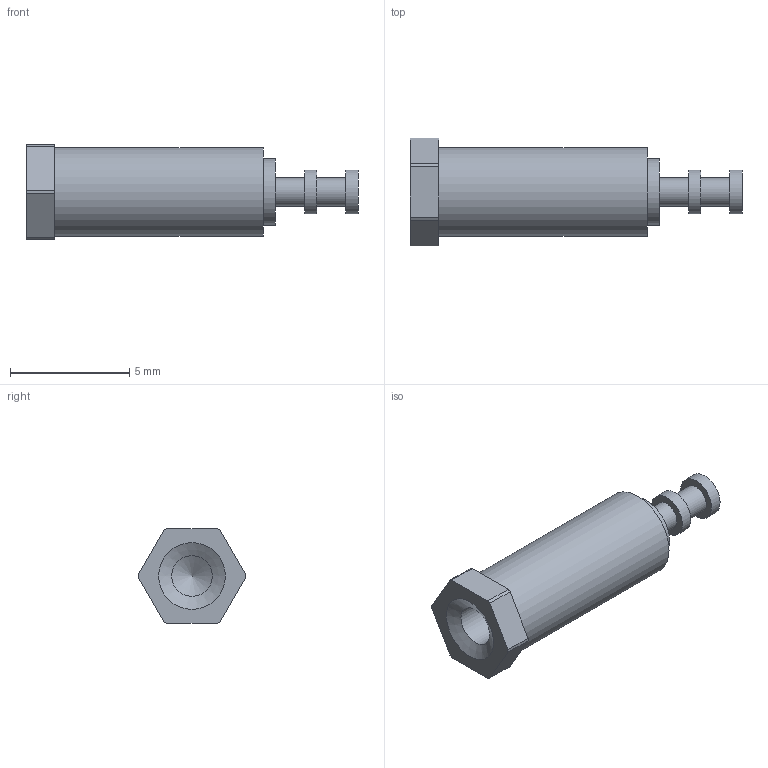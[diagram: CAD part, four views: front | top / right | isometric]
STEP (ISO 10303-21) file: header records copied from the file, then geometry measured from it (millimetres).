
FILE_DESCRIPTION(/* description */ (''),/* implementation_level */ '2;1');
FILE_NAME(/* name */ '\\Snap1\dwgs\Customer 3D Models\572\572-4887-01 Customer model.stp',/* time_stamp */ '2017-01-12T14:44:57+00:00',/* author */ ('paulk'),/* organization */ (''),/* preprocessor_version */ 'ST-DEVELOPER v15.2',/* originating_system */ 'Autodesk Inventor 2014',/* authorisation */ '');
FILE_SCHEMA (('CONFIG_CONTROL_DESIGN'));
Length unit declared in the file: millimetre
Products named in the file (1): 572-4887-01 Customer model
Bounding box: 13.89 x 4.5 x 3.96 mm (x, y, z)
Volume: 109.2 mm3; surface area: 191 mm2
Topology: 1 solids, 1 shells, 29 faces, 61 edges, 40 vertices
Faces by surface type: plane 14, cylinder 13, cone 2
Full cylindrical faces by diameter (mm): 1.194 x2, 1.694 x1, 1.829 x2, 2.769 x1, 3.708 x1
Entity records: 810 total; most frequent: DIRECTION 138, CARTESIAN_POINT 120, ORIENTED_EDGE 102, AXIS2_PLACEMENT_3D 57, EDGE_CURVE 51, EDGE_LOOP 44, VERTEX_POINT 39, STYLED_ITEM 30
